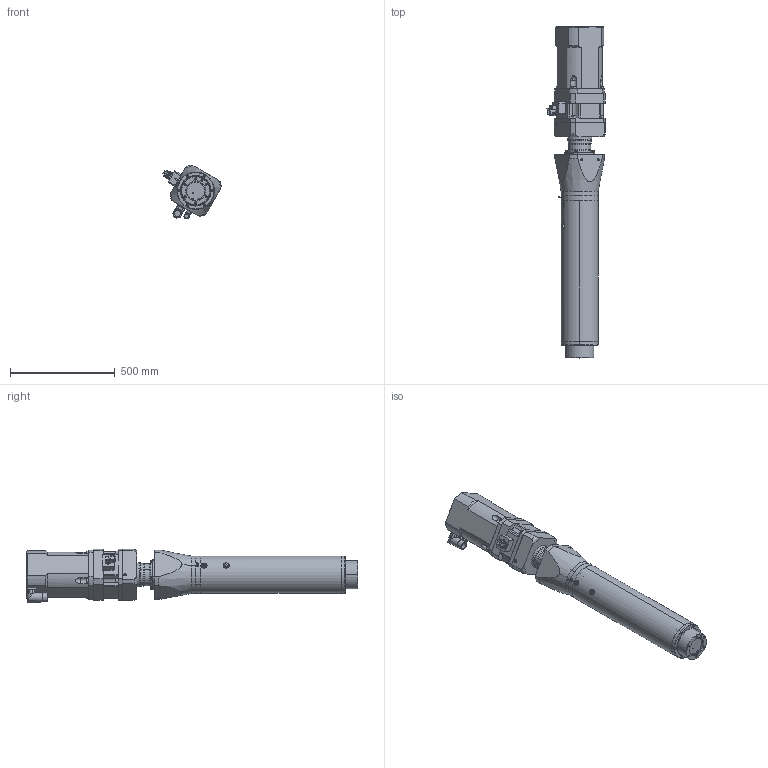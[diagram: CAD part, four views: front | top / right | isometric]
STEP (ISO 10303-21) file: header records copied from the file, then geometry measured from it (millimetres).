
FILE_DESCRIPTION (( 'STEP AP203' ), '1' );
FILE_NAME ('LN5I0600-035-025SG0.STEP', '2014-11-13T14:43:07', ( 'Holtz' ), ( '' ), 'SwSTEP 2.0', 'SolidWorks 2013', '' );
FILE_SCHEMA (( 'CONFIG_CONTROL_DESIGN' ));
Length unit declared in the file: millimetre
Products named in the file (1): LN5I0600-035-025SG0
Bounding box: 280.49 x 1583.5 x 256.81 mm (x, y, z)
Volume: 35117321.9 mm3; surface area: 2428671.4 mm2
Topology: 30 solids, 30 shells, 1353 faces, 3202 edges, 1926 vertices
Faces by surface type: cylinder 522, plane 497, cone 228, torus 78, bspline 26, sphere 2
Entity records: 40415 total; most frequent: CARTESIAN_POINT 9027, DIRECTION 6959, ORIENTED_EDGE 6120, EDGE_CURVE 3060, AXIS2_PLACEMENT_3D 2699, VERTEX_POINT 1926, EDGE_LOOP 1594, VECTOR 1561
